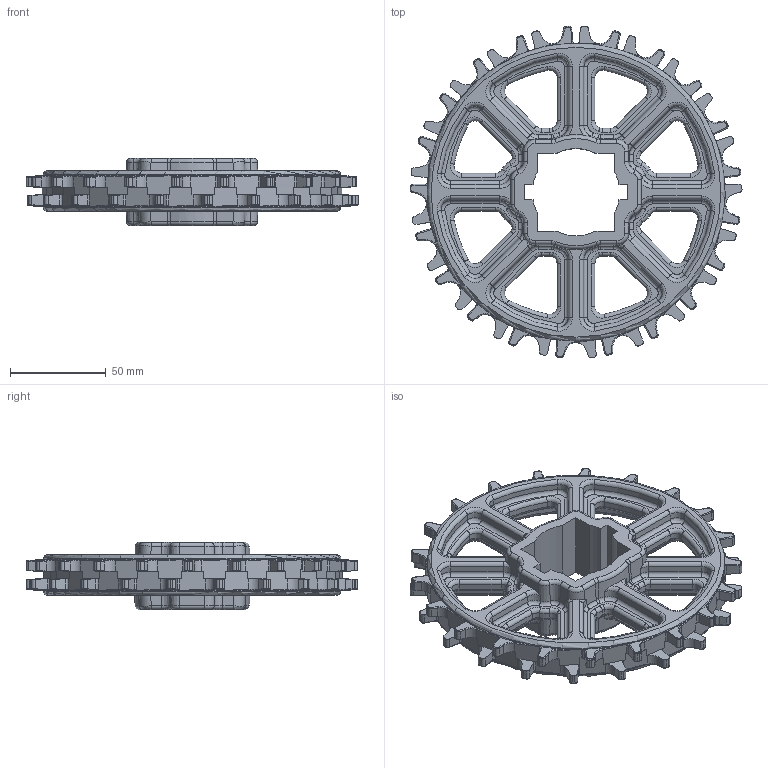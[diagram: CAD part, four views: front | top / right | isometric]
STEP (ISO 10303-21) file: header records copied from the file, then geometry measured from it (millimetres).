
FILE_DESCRIPTION(/* description */ (''),/* implementation_level */ '2;1');
FILE_NAME(/* name */ 'HS-500-21T-2R.stp',/* time_stamp */ '2024-11-07T09:35:14+08:00',/* author */ (''),/* organization */ (''),/* preprocessor_version */ 'ST-DEVELOPER v15',/* originating_system */ 'SIEMENS PLM Software NX 8.5',/* authorisation */ '');
FILE_SCHEMA (('AP203_CONFIGURATION_CONTROLLED_3D_DESIGN_OF_MECHANICAL_PARTS_AND_ASSEMBLIES_MIM_LF { 1 0 10303 403 2 1 2}'));
Length unit declared in the file: millimetre
Products named in the file (1): Admi2D74DA95eifm
Bounding box: 172.98 x 172.57 x 35 mm (x, y, z)
Volume: 219592.1 mm3; surface area: 65720.6 mm2
Topology: 1 solids, 1 shells, 1656 faces, 4249 edges, 2533 vertices
Faces by surface type: cylinder 580, bspline 480, plane 362, torus 206, cone 28
Full cylindrical faces by diameter (mm): 155 x2
Entity records: 57382 total; most frequent: CARTESIAN_POINT 18944, ORIENTED_EDGE 8350, DIRECTION 7850, EDGE_CURVE 4175, AXIS2_PLACEMENT_3D 3289, VERTEX_POINT 2529, EDGE_LOOP 1678, ADVANCED_FACE 1654
